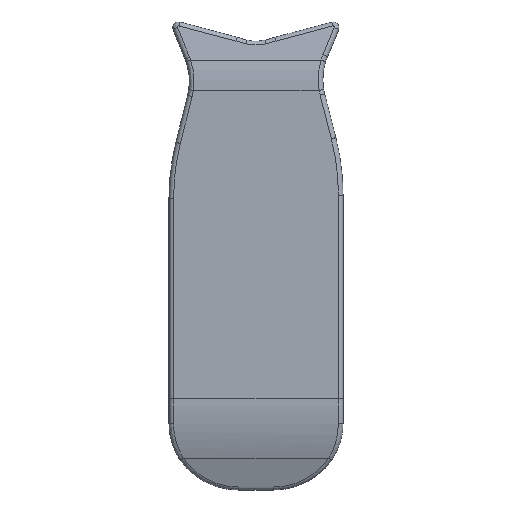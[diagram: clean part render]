
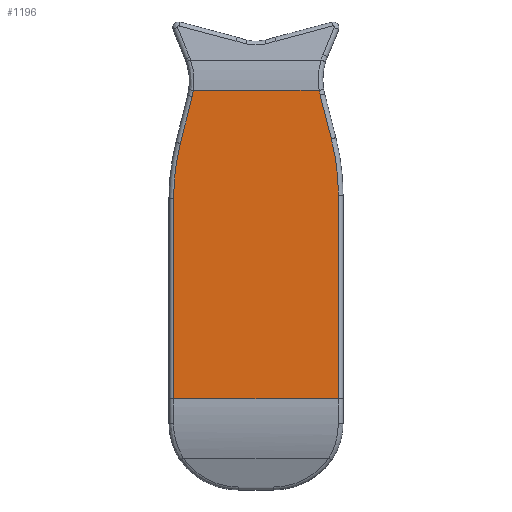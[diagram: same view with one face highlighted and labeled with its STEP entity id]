
A CAD part, front view. The second image highlights one B-rep face of the part: STEP entity #1196.
In plain terms, the highlighted planar face has unit normal (0, -1, 0).
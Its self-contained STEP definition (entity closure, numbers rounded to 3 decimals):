
#16=PLANE('',#1329);
#146=FACE_OUTER_BOUND('',#228,.T.);
#228=EDGE_LOOP('',(#886,#887,#888,#889,#890,#891,#892,#893,#894,#895));
#282=LINE('',#1879,#337);
#284=LINE('',#1891,#339);
#288=LINE('',#1975,#343);
#290=LINE('',#1987,#345);
#298=LINE('',#2336,#353);
#301=LINE('',#2341,#356);
#337=VECTOR('',#1448,10.);
#339=VECTOR('',#1462,10.);
#343=VECTOR('',#1510,10.);
#345=VECTOR('',#1524,10.);
#353=VECTOR('',#1570,10.);
#356=VECTOR('',#1577,10.);
#395=CIRCLE('',#1271,54.);
#399=CIRCLE('',#1277,196.);
#419=CIRCLE('',#1305,196.);
#423=CIRCLE('',#1311,54.);
#481=VERTEX_POINT('',#1857);
#483=VERTEX_POINT('',#1871);
#485=VERTEX_POINT('',#1877);
#487=VERTEX_POINT('',#1883);
#489=VERTEX_POINT('',#1889);
#503=VERTEX_POINT('',#1968);
#505=VERTEX_POINT('',#1973);
#507=VERTEX_POINT('',#1979);
#509=VERTEX_POINT('',#1985);
#511=VERTEX_POINT('',#1991);
#591=EDGE_CURVE('',#483,#481,#395,.T.);
#594=EDGE_CURVE('',#485,#483,#282,.T.);
#597=EDGE_CURVE('',#487,#485,#399,.T.);
#600=EDGE_CURVE('',#489,#487,#284,.T.);
#622=EDGE_CURVE('',#505,#503,#288,.T.);
#625=EDGE_CURVE('',#507,#505,#419,.T.);
#628=EDGE_CURVE('',#509,#507,#290,.T.);
#631=EDGE_CURVE('',#511,#509,#423,.T.);
#664=EDGE_CURVE('',#481,#511,#298,.T.);
#667=EDGE_CURVE('',#503,#489,#301,.T.);
#886=ORIENTED_EDGE('',*,*,#591,.F.);
#887=ORIENTED_EDGE('',*,*,#594,.F.);
#888=ORIENTED_EDGE('',*,*,#597,.F.);
#889=ORIENTED_EDGE('',*,*,#600,.F.);
#890=ORIENTED_EDGE('',*,*,#667,.F.);
#891=ORIENTED_EDGE('',*,*,#622,.F.);
#892=ORIENTED_EDGE('',*,*,#625,.F.);
#893=ORIENTED_EDGE('',*,*,#628,.F.);
#894=ORIENTED_EDGE('',*,*,#631,.F.);
#895=ORIENTED_EDGE('',*,*,#664,.F.);
#1196=ADVANCED_FACE('',(#146),#16,.T.);
#1271=AXIS2_PLACEMENT_3D('',#1873,#1440,#1441);
#1277=AXIS2_PLACEMENT_3D('',#1885,#1454,#1455);
#1305=AXIS2_PLACEMENT_3D('',#1981,#1516,#1517);
#1311=AXIS2_PLACEMENT_3D('',#1993,#1530,#1531);
#1329=AXIS2_PLACEMENT_3D('',#2340,#1575,#1576);
#1440=DIRECTION('center_axis',(0.,-1.,0.));
#1441=DIRECTION('ref_axis',(0.98,0.,-0.2));
#1448=DIRECTION('',(0.243,0.,0.97));
#1454=DIRECTION('center_axis',(0.,1.,0.));
#1455=DIRECTION('ref_axis',(-0.993,0.,0.122));
#1462=DIRECTION('',(0.,0.,1.));
#1510=DIRECTION('',(0.,0.,-1.));
#1516=DIRECTION('center_axis',(0.,1.,0.));
#1517=DIRECTION('ref_axis',(0.992,0.,0.125));
#1524=DIRECTION('',(0.248,0.,-0.969));
#1530=DIRECTION('center_axis',(0.,-1.,0.));
#1531=DIRECTION('ref_axis',(-0.976,0.,-0.218));
#1570=DIRECTION('',(1.,0.,0.));
#1575=DIRECTION('center_axis',(0.,-1.,0.));
#1576=DIRECTION('ref_axis',(0.,0.,-1.));
#1577=DIRECTION('',(-1.,0.,0.));
#1857=CARTESIAN_POINT('',(21.003,-20.,-11.374));
#1871=CARTESIAN_POINT('',(19.959,-20.,-16.655));
#1873=CARTESIAN_POINT('Origin',(-32.428,-20.,-3.558));
#1877=CARTESIAN_POINT('',(9.852,-20.,-57.084));
#1879=CARTESIAN_POINT('',(13.498,-20.,-42.5));
#1883=CARTESIAN_POINT('',(4.,-20.,-104.621));
#1885=CARTESIAN_POINT('Origin',(200.,-20.,-104.621));
#1889=CARTESIAN_POINT('',(4.,-20.,-277.077));
#1891=CARTESIAN_POINT('',(4.,-20.,-74.967));
#1968=CARTESIAN_POINT('',(146.,-20.,-277.077));
#1973=CARTESIAN_POINT('',(146.,-20.,-101.673));
#1975=CARTESIAN_POINT('',(146.,-20.,-74.967));
#1979=CARTESIAN_POINT('',(139.899,-20.,-53.153));
#1981=CARTESIAN_POINT('Origin',(-50.,-20.,-101.673));
#1985=CARTESIAN_POINT('',(130.248,-20.,-15.378));
#1987=CARTESIAN_POINT('',(122.365,-20.,15.475));
#1991=CARTESIAN_POINT('',(129.385,-20.,-11.374));
#1993=CARTESIAN_POINT('Origin',(182.567,-20.,-2.01));
#2336=CARTESIAN_POINT('',(0.,-20.,-11.374));
#2340=CARTESIAN_POINT('Origin',(0.,-20.,1.75));
#2341=CARTESIAN_POINT('',(0.,-20.,-277.077));
